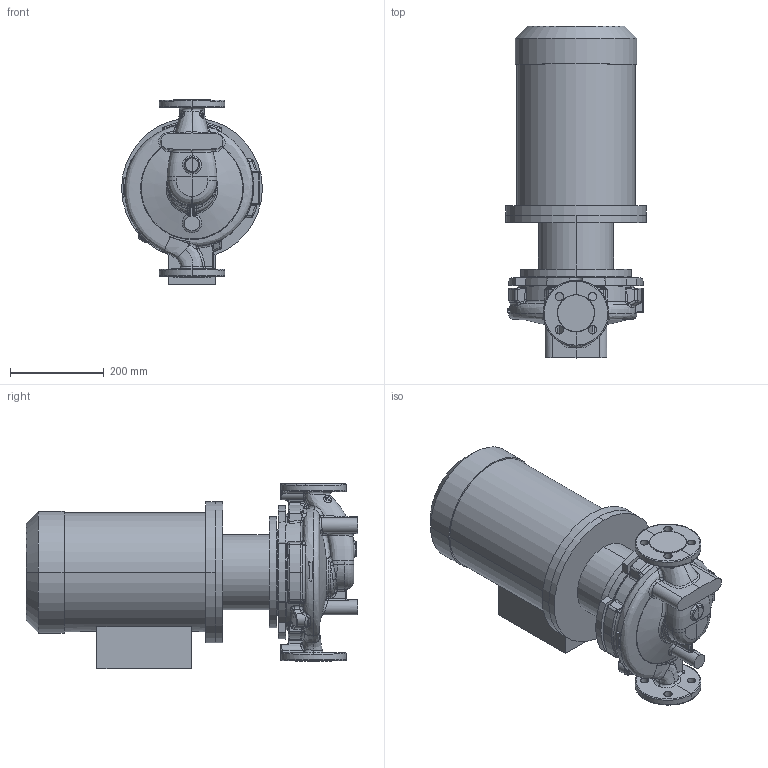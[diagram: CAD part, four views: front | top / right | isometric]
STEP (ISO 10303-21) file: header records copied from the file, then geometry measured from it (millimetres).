
FILE_DESCRIPTION (( 'STEP AP214' ), '1' );
FILE_NAME ('KRL 32-200-2-5,5.STEP', '2026-03-17T09:34:40', ( '' ), ( '' ), 'SwSTEP 2.0', 'SolidWorks 2016', '' );
FILE_SCHEMA (( 'AUTOMOTIVE_DESIGN' ));
Length unit declared in the file: millimetre
Products named in the file (1): KRL 32-200-2-5,5
Bounding box: 300 x 707.3 x 396 mm (x, y, z)
Volume: 33665885.1 mm3; surface area: 1267210.7 mm2
Topology: 4 solids, 4 shells, 707 faces, 1709 edges, 1006 vertices
Faces by surface type: bspline 336, cylinder 155, plane 109, cone 45, torus 35, sphere 27
Entity records: 60736 total; most frequent: CARTESIAN_POINT 39439, ORIENTED_EDGE 3368, DIRECTION 2082, EDGE_CURVE 1684, VERTEX_POINT 1006, AXIS2_PLACEMENT_3D 899, EDGE_LOOP 744, B_SPLINE_CURVE_WITH_KNOTS 728
